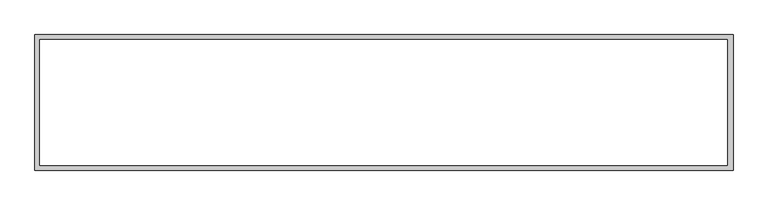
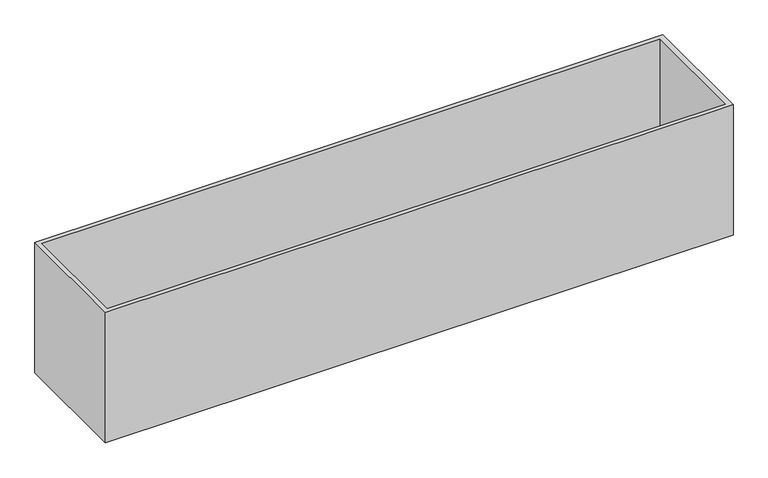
"""IFC4 building model written with IfcOpenShell, lengths in millimetres: beam geometry, Insulation_config6 : Insulation_config6."""

from ifc_helpers import new_model, si_unit, frame, origin, place, context, project, spatial, polyline, outline, extrude, source, transform, mapped, element, save


def beam_9de8577c(model_context):
    return source(origin(), model_context, "Body", "SweptSolid", [
        extrude(outline(polyline([(1521.3840799, 2778.9580405), (13431.3840799, 2778.9580405), (13431.3840799, 465.9580405), (1521.3840799, 465.9580405), (1521.3840799, 2778.9580405)]), holes=[polyline([(13329.1314554, 545.9580405), (13329.1314554, 2698.9580405), (1601.1314554, 2698.9580405), (1601.1314554, 545.9580405), (13329.1314554, 545.9580405)])]), frame((0.0, 0.0, 424.0), z_axis=(0.0, 0.0, 1.0), x_axis=(1.0, 0.0, 0.0)), (0.0, 0.0, 1.0), 2616.0),
    ])


if __name__ == "__main__":
    model = new_model("IFC4")
    model_context = context("Model", 3, world=origin())
    ifc_project = project(units=[si_unit("LENGTHUNIT", "METRE", prefix="MILLI")], contexts=[model_context])
    site = spatial("IfcSite", under=ifc_project)
    building = spatial("IfcBuilding", under=site)
    placement = place(None, origin())
    beam_shape = beam_9de8577c(model_context)
    element("IfcBeam", 1, ObjectType="Insulation_config6 : Insulation_config6", at=placement, inside=building, context=model_context, shape_type="MappedRepresentation", body=[
        mapped(beam_shape, transform((0.0, 0.0, 0.0), x_axis=(1.0, 0.0, 0.0), y_axis=(0.0, 1.0, 0.0), z_axis=(0.0, 0.0, 1.0))),
    ])
    save(model, "model.ifc")
